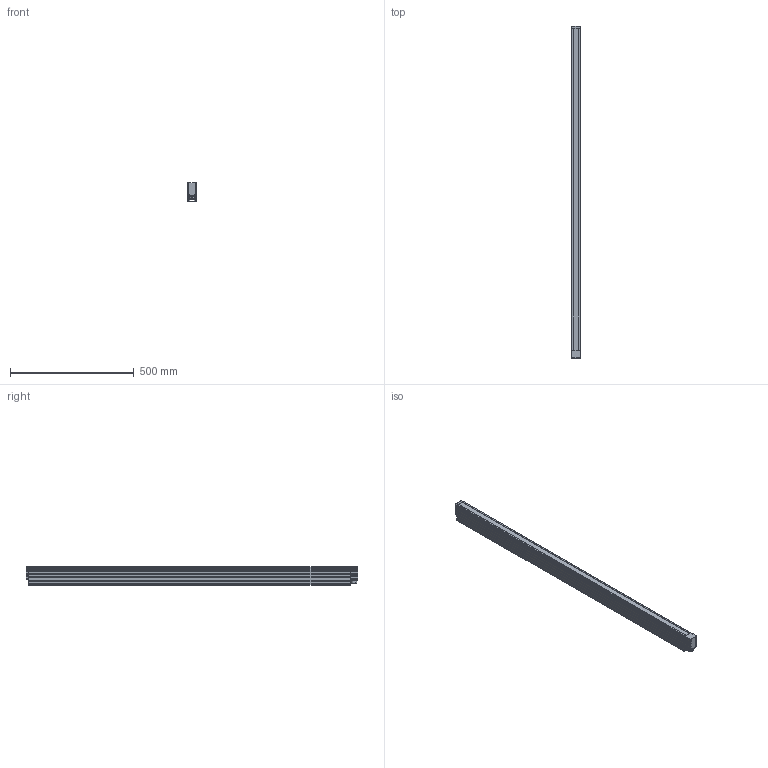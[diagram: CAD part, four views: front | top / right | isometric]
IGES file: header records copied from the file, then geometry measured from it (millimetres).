
Start section: SolidWorks IGES file using analytic representation for surfaces
Global section: file name: C:\Users\88691\Desktop\VST LIGHTING\VST LINEAR LIGHT 線燈\VLN 線光\VLN STEP圖檔用\VLN (L_D)-1300W _ Drawing _ L1266A (L12781A_L1297A)-A00101.IGS; native system: SolidWorks 2020; preprocessor: SolidWorks 2020; author: 88691; date: 240624.151610; units: millimetre
Bounding box: 40 x 1342 x 75 mm (x, y, z)
Surface area: 721396.6 mm2 (no closed solid volume)
Topology: 0 solids, 0 shells, 1158 faces, 12124 edges, 12123 vertices
Faces by surface type: bspline 734, revolution 424
